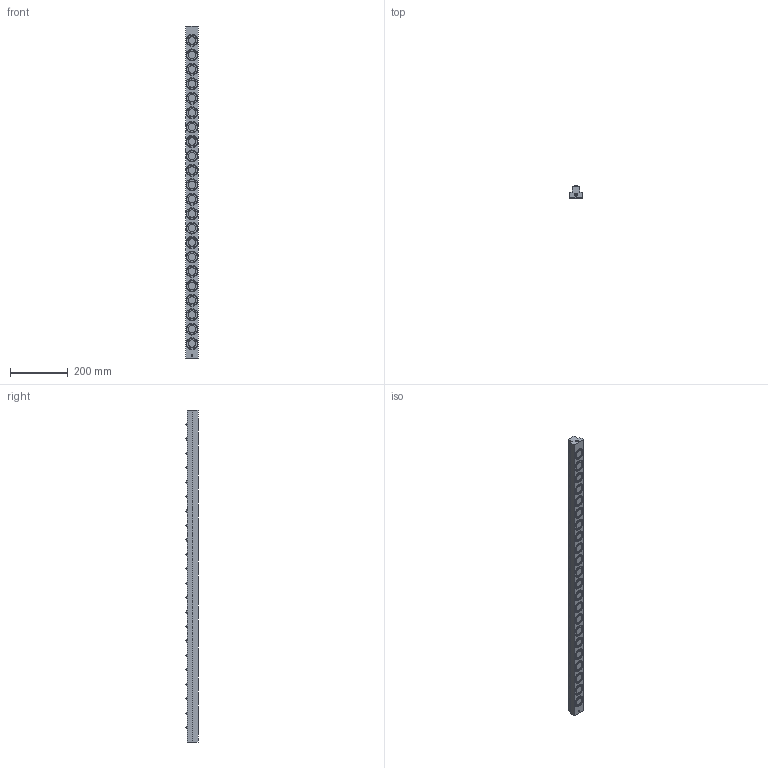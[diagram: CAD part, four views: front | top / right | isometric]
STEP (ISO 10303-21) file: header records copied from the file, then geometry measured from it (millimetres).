
FILE_DESCRIPTION (( 'STEP AP203' ), '1' );
FILE_NAME ('PVL50T-22.STEP', '2016-02-18T05:03:56', ( '' ), ( '' ), 'SwSTEP 2.0', 'SolidWorks 2013', '' );
FILE_SCHEMA (( 'CONFIG_CONTROL_DESIGN' ));
Length unit declared in the file: millimetre
Products named in the file (1): PVL50T-22
Bounding box: 45 x 42 x 1150 mm (x, y, z)
Volume: 1553319.1 mm3; surface area: 228720.7 mm2
Topology: 1 solids, 1 shells, 704 faces, 1658 edges, 1111 vertices
Faces by surface type: cylinder 446, plane 210, sphere 44, cone 4
Entity records: 20877 total; most frequent: DIRECTION 4094, CARTESIAN_POINT 3472, ORIENTED_EDGE 3312, AXIS2_PLACEMENT_3D 1733, EDGE_CURVE 1656, VERTEX_POINT 1111, CIRCLE 1028, EDGE_LOOP 863
